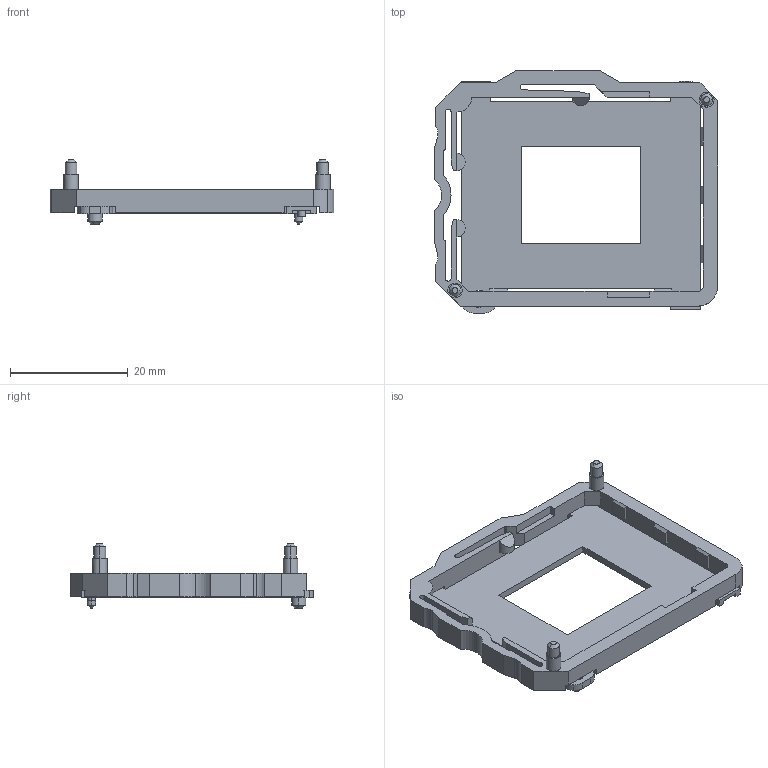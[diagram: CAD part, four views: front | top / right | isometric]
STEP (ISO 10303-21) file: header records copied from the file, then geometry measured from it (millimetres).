
FILE_DESCRIPTION((''),'2;1');
FILE_NAME('2503000C.stp','2004-08-20T06:58:14',(''),(''),'Mechanical Desktop.R8.0.24.0','Mechanical Desktop.R8.0.24.0',', , ');
FILE_SCHEMA(('CONFIG_CONTROL_DESIGN'));
Length unit declared in the file: millimetre
Products named in the file (3): 2503000C; 795; 848D
Assembly tree (2 placements, depth 2):
  2503000C
    795
    848D
Bounding box: 48.29 x 41.18 x 10.91 mm (x, y, z)
Volume: 2814.5 mm3; surface area: 4772.1 mm2
Topology: 2 solids, 2 shells, 220 faces, 604 edges, 393 vertices
Faces by surface type: plane 141, cylinder 71, cone 8
Entity records: 7183 total; most frequent: CARTESIAN_POINT 1302, DIRECTION 1210, ORIENTED_EDGE 1208, EDGE_CURVE 604, VECTOR 440, LINE 440, VERTEX_POINT 393, AXIS2_PLACEMENT_3D 385
